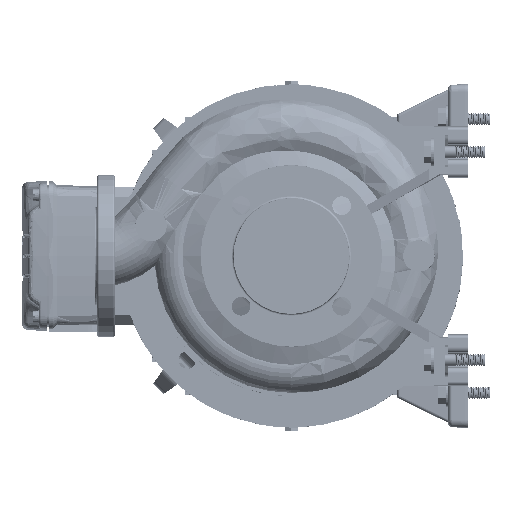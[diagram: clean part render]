
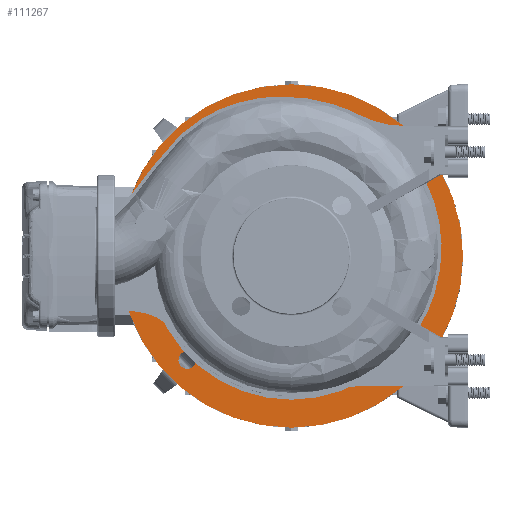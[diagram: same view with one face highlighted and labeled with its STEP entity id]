
A CAD part, left-side view. The second image highlights one B-rep face of the part: STEP entity #111267.
In plain terms, the highlighted planar face has unit normal (-1, 0, 0).
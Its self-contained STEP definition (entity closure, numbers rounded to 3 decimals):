
#549 = DIRECTION ( 'NONE',  ( 0., 0., -1. ) ) ;
#4816 = CARTESIAN_POINT ( 'NONE',  ( 467.255, 589.343, 797.564 ) ) ;
#5372 = CARTESIAN_POINT ( 'NONE',  ( 467.255, 695.378, 894.653 ) ) ;
#6781 = VERTEX_POINT ( 'NONE', #89955 ) ;
#7019 = EDGE_CURVE ( 'NONE', #15124, #170511, #161518, .T. ) ;
#8526 = AXIS2_PLACEMENT_3D ( 'NONE', #24389, #164126, #196811 ) ;
#8766 = DIRECTION ( 'NONE',  ( 0., 0., -1. ) ) ;
#10806 = DIRECTION ( 'NONE',  ( -1., 0., 0. ) ) ;
#10992 = DIRECTION ( 'NONE',  ( 1., 0., 0. ) ) ;
#12761 = DIRECTION ( 'NONE',  ( 1., 0., 0. ) ) ;
#15124 = VERTEX_POINT ( 'NONE', #157606 ) ;
#15841 = ORIENTED_EDGE ( 'NONE', *, *, #63625, .F. ) ;
#17865 = DIRECTION ( 'NONE',  ( 0., 0., 1. ) ) ;
#19352 = VERTEX_POINT ( 'NONE', #130654 ) ;
#20659 = VERTEX_POINT ( 'NONE', #113567 ) ;
#20696 = DIRECTION ( 'NONE',  ( 0., 0., 1. ) ) ;
#24389 = CARTESIAN_POINT ( 'NONE',  ( 467.255, 801.413, 788.564 ) ) ;
#24832 = EDGE_CURVE ( 'NONE', #20659, #157774, #199204, .T. ) ;
#25611 = DIRECTION ( 'NONE',  ( 1., 0., 0. ) ) ;
#26994 = CARTESIAN_POINT ( 'NONE',  ( 467.255, 585.38, 894.653 ) ) ;
#27508 = AXIS2_PLACEMENT_3D ( 'NONE', #48242, #49331, #31320 ) ;
#30030 = EDGE_CURVE ( 'NONE', #157774, #95742, #207325, .T. ) ;
#30121 = CIRCLE ( 'NONE', #8526, 9. ) ;
#31320 = DIRECTION ( 'NONE',  ( 0., 0., -1. ) ) ;
#31746 = AXIS2_PLACEMENT_3D ( 'NONE', #73637, #108558, #91686 ) ;
#35502 = DIRECTION ( 'NONE',  ( -1., 0., 0. ) ) ;
#35556 = AXIS2_PLACEMENT_3D ( 'NONE', #93275, #92192, #125962 ) ;
#36108 = CIRCLE ( 'NONE', #162094, 9. ) ;
#36265 = CIRCLE ( 'NONE', #219788, 9. ) ;
#38310 = CIRCLE ( 'NONE', #110268, 9. ) ;
#39506 = AXIS2_PLACEMENT_3D ( 'NONE', #92221, #25611, #94424 ) ;
#39831 = FACE_BOUND ( 'NONE', #101189, .T. ) ;
#40187 = VERTEX_POINT ( 'NONE', #4816 ) ;
#41531 = DIRECTION ( 'NONE',  ( 0., 0., 1. ) ) ;
#42413 = DIRECTION ( 'NONE',  ( 0., 0., -1. ) ) ;
#44602 = CARTESIAN_POINT ( 'NONE',  ( 467.255, 695.378, 766.974 ) ) ;
#46234 = CIRCLE ( 'NONE', #31746, 127.679 ) ;
#46596 = ORIENTED_EDGE ( 'NONE', *, *, #133086, .T. ) ;
#48242 = CARTESIAN_POINT ( 'NONE',  ( 467.255, 695.378, 894.653 ) ) ;
#49331 = DIRECTION ( 'NONE',  ( 1., 0., 0. ) ) ;
#49490 = CARTESIAN_POINT ( 'NONE',  ( 467.255, 801.413, 991.743 ) ) ;
#50994 = DIRECTION ( 'NONE',  ( 0., 0., -1. ) ) ;
#53791 = CARTESIAN_POINT ( 'NONE',  ( 467.255, 695.378, 1022.333 ) ) ;
#53948 = CIRCLE ( 'NONE', #39506, 9. ) ;
#55643 = FACE_BOUND ( 'NONE', #174058, .T. ) ;
#63625 = EDGE_CURVE ( 'NONE', #89086, #155020, #36108, .T. ) ;
#64187 = EDGE_CURVE ( 'NONE', #133897, #69628, #36265, .T. ) ;
#64927 = CARTESIAN_POINT ( 'NONE',  ( 467.255, 695.378, 894.653 ) ) ;
#65498 = ORIENTED_EDGE ( 'NONE', *, *, #24832, .T. ) ;
#65539 = EDGE_LOOP ( 'NONE', ( #181548, #214747 ) ) ;
#67933 = CARTESIAN_POINT ( 'NONE',  ( 467.255, 801.413, 1000.743 ) ) ;
#69628 = VERTEX_POINT ( 'NONE', #49490 ) ;
#73637 = CARTESIAN_POINT ( 'NONE',  ( 467.255, 695.378, 894.653 ) ) ;
#74190 = DIRECTION ( 'NONE',  ( 1., 0., 0. ) ) ;
#74436 = DIRECTION ( 'NONE',  ( 1., 0., 0. ) ) ;
#75525 = EDGE_CURVE ( 'NONE', #170511, #15124, #38310, .T. ) ;
#75789 = CIRCLE ( 'NONE', #93830, 175. ) ;
#77773 = DIRECTION ( 'NONE',  ( 0., 0., 1. ) ) ;
#80447 = EDGE_LOOP ( 'NONE', ( #128593, #165025 ) ) ;
#88938 = DIRECTION ( 'NONE',  ( 1., 0., 0. ) ) ;
#89086 = VERTEX_POINT ( 'NONE', #203428 ) ;
#89955 = CARTESIAN_POINT ( 'NONE',  ( 467.255, 589.343, 779.564 ) ) ;
#91686 = DIRECTION ( 'NONE',  ( 0., 0., -1. ) ) ;
#92192 = DIRECTION ( 'NONE',  ( 1., 0., 0. ) ) ;
#92221 = CARTESIAN_POINT ( 'NONE',  ( 467.255, 589.343, 788.564 ) ) ;
#93275 = CARTESIAN_POINT ( 'NONE',  ( 467.255, 695.378, 894.653 ) ) ;
#93830 = AXIS2_PLACEMENT_3D ( 'NONE', #64927, #133655, #202393 ) ;
#94424 = DIRECTION ( 'NONE',  ( 0., 0., 1. ) ) ;
#95742 = VERTEX_POINT ( 'NONE', #44602 ) ;
#101189 = EDGE_LOOP ( 'NONE', ( #117745, #201847, #201540, #65498 ) ) ;
#101371 = CARTESIAN_POINT ( 'NONE',  ( 467.255, 589.343, 788.564 ) ) ;
#101857 = EDGE_CURVE ( 'NONE', #163850, #20659, #140004, .T. ) ;
#103530 = AXIS2_PLACEMENT_3D ( 'NONE', #101371, #88938, #17865 ) ;
#105506 = VERTEX_POINT ( 'NONE', #193373 ) ;
#108558 = DIRECTION ( 'NONE',  ( 1., 0., 0. ) ) ;
#110138 = CARTESIAN_POINT ( 'NONE',  ( 467.255, 589.343, 991.743 ) ) ;
#110268 = AXIS2_PLACEMENT_3D ( 'NONE', #148325, #10806, #42413 ) ;
#110638 = ORIENTED_EDGE ( 'NONE', *, *, #64187, .T. ) ;
#110815 = CARTESIAN_POINT ( 'NONE',  ( 467.255, 870.378, 894.653 ) ) ;
#111210 = AXIS2_PLACEMENT_3D ( 'NONE', #188832, #35502, #549 ) ;
#111267 = ADVANCED_FACE ( 'NONE', ( #158193, #125507, #145741, #141296, #55643, #39831 ), #210000, .T. ) ;
#113567 = CARTESIAN_POINT ( 'NONE',  ( 467.255, 568.788, 911.295 ) ) ;
#114704 = CARTESIAN_POINT ( 'NONE',  ( 467.255, 801.413, 1000.743 ) ) ;
#115533 = EDGE_CURVE ( 'NONE', #6781, #40187, #53948, .T. ) ;
#117745 = ORIENTED_EDGE ( 'NONE', *, *, #30030, .T. ) ;
#125507 = FACE_BOUND ( 'NONE', #65539, .T. ) ;
#125962 = DIRECTION ( 'NONE',  ( 0., 0., -1. ) ) ;
#128593 = ORIENTED_EDGE ( 'NONE', *, *, #172438, .F. ) ;
#128815 = DIRECTION ( 'NONE',  ( -1., 0., 0. ) ) ;
#130654 = CARTESIAN_POINT ( 'NONE',  ( 467.255, 695.378, 719.653 ) ) ;
#131447 = EDGE_CURVE ( 'NONE', #95742, #163850, #46234, .T. ) ;
#133086 = EDGE_CURVE ( 'NONE', #40187, #6781, #200677, .T. ) ;
#133655 = DIRECTION ( 'NONE',  ( 1., 0., 0. ) ) ;
#133897 = VERTEX_POINT ( 'NONE', #197163 ) ;
#134112 = EDGE_CURVE ( 'NONE', #69628, #133897, #157873, .T. ) ;
#135529 = AXIS2_PLACEMENT_3D ( 'NONE', #5372, #74190, #142901 ) ;
#140004 = CIRCLE ( 'NONE', #35556, 127.679 ) ;
#141296 = FACE_BOUND ( 'NONE', #160528, .T. ) ;
#142901 = DIRECTION ( 'NONE',  ( 0., 0., -1. ) ) ;
#145741 = FACE_OUTER_BOUND ( 'NONE', #80447, .T. ) ;
#146305 = CIRCLE ( 'NONE', #135529, 175. ) ;
#148325 = CARTESIAN_POINT ( 'NONE',  ( 467.255, 589.343, 1000.743 ) ) ;
#152060 = EDGE_CURVE ( 'NONE', #105506, #19352, #75789, .T. ) ;
#154635 = EDGE_CURVE ( 'NONE', #155020, #89086, #30121, .T. ) ;
#155020 = VERTEX_POINT ( 'NONE', #168291 ) ;
#157606 = CARTESIAN_POINT ( 'NONE',  ( 467.255, 589.343, 1009.743 ) ) ;
#157774 = VERTEX_POINT ( 'NONE', #164696 ) ;
#157873 = CIRCLE ( 'NONE', #190198, 9. ) ;
#158193 = FACE_BOUND ( 'NONE', #165561, .T. ) ;
#160528 = EDGE_LOOP ( 'NONE', ( #15841, #174165 ) ) ;
#161518 = CIRCLE ( 'NONE', #111210, 9. ) ;
#162094 = AXIS2_PLACEMENT_3D ( 'NONE', #195931, #180118, #41531 ) ;
#163850 = VERTEX_POINT ( 'NONE', #53791 ) ;
#164126 = DIRECTION ( 'NONE',  ( -1., 0., 0. ) ) ;
#164696 = CARTESIAN_POINT ( 'NONE',  ( 467.255, 568.788, 878.011 ) ) ;
#165025 = ORIENTED_EDGE ( 'NONE', *, *, #152060, .F. ) ;
#165561 = EDGE_LOOP ( 'NONE', ( #187337, #110638 ) ) ;
#168291 = CARTESIAN_POINT ( 'NONE',  ( 467.255, 801.413, 779.564 ) ) ;
#170511 = VERTEX_POINT ( 'NONE', #110138 ) ;
#172438 = EDGE_CURVE ( 'NONE', #19352, #105506, #146305, .T. ) ;
#174058 = EDGE_LOOP ( 'NONE', ( #46596, #182908 ) ) ;
#174165 = ORIENTED_EDGE ( 'NONE', *, *, #154635, .F. ) ;
#175957 = AXIS2_PLACEMENT_3D ( 'NONE', #110815, #128815, #20696 ) ;
#180118 = DIRECTION ( 'NONE',  ( -1., 0., 0. ) ) ;
#181548 = ORIENTED_EDGE ( 'NONE', *, *, #75525, .F. ) ;
#182908 = ORIENTED_EDGE ( 'NONE', *, *, #115533, .T. ) ;
#184923 = AXIS2_PLACEMENT_3D ( 'NONE', #26994, #74436, #77773 ) ;
#187337 = ORIENTED_EDGE ( 'NONE', *, *, #134112, .T. ) ;
#188832 = CARTESIAN_POINT ( 'NONE',  ( 467.255, 589.343, 1000.743 ) ) ;
#190198 = AXIS2_PLACEMENT_3D ( 'NONE', #67933, #12761, #50994 ) ;
#193373 = CARTESIAN_POINT ( 'NONE',  ( 467.255, 695.378, 1069.653 ) ) ;
#195931 = CARTESIAN_POINT ( 'NONE',  ( 467.255, 801.413, 788.564 ) ) ;
#196811 = DIRECTION ( 'NONE',  ( 0., 0., 1. ) ) ;
#197163 = CARTESIAN_POINT ( 'NONE',  ( 467.255, 801.413, 1009.743 ) ) ;
#199204 = CIRCLE ( 'NONE', #184923, 23.5 ) ;
#200677 = CIRCLE ( 'NONE', #103530, 9. ) ;
#201540 = ORIENTED_EDGE ( 'NONE', *, *, #101857, .T. ) ;
#201847 = ORIENTED_EDGE ( 'NONE', *, *, #131447, .T. ) ;
#202393 = DIRECTION ( 'NONE',  ( 0., 0., -1. ) ) ;
#203428 = CARTESIAN_POINT ( 'NONE',  ( 467.255, 801.413, 797.564 ) ) ;
#207325 = CIRCLE ( 'NONE', #27508, 127.679 ) ;
#210000 = PLANE ( 'NONE',  #175957 ) ;
#214747 = ORIENTED_EDGE ( 'NONE', *, *, #7019, .F. ) ;
#219788 = AXIS2_PLACEMENT_3D ( 'NONE', #114704, #10992, #8766 ) ;
